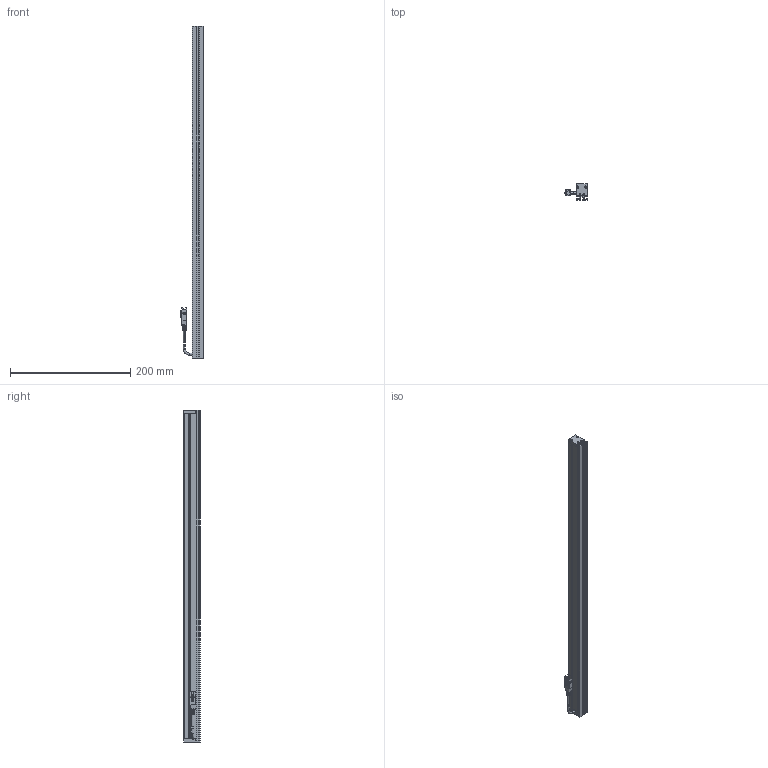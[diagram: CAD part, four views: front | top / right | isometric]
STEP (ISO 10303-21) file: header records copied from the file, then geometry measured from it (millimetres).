
FILE_DESCRIPTION (( 'STEP AP203' ), '1' );
FILE_NAME ('CK-BL55218.STEP', '2025-12-26T08:51:58', ( '' ), ( '' ), 'SwSTEP 2.0', 'SolidWorks 2022', '' );
FILE_SCHEMA (( 'CONFIG_CONTROL_DESIGN' ));
Length unit declared in the file: millimetre
Products named in the file (6): CK-BL55218; CK-BL55218-002A; CK-BL55218-001A; 十字沉头螺丝 M2x10; 光源线-01; CK-BL55218-003A
Assembly tree (9 placements, depth 2):
  CK-BL55218
    CK-BL55218-001A
    CK-BL55218-002A  x2
    CK-BL55218-003A
    光源线-01
    十字沉头螺丝 M2x10  x4
Bounding box: 37.34 x 27 x 552 mm (x, y, z)
Volume: 124073.5 mm3; surface area: 122516.8 mm2
Topology: 11 solids, 11 shells, 474 faces, 1231 edges, 780 vertices
Faces by surface type: plane 271, cylinder 149, cone 34, bspline 20
Entity records: 12442 total; most frequent: CARTESIAN_POINT 2514, ORIENTED_EDGE 1936, DIRECTION 1916, EDGE_CURVE 968, LINE 668, VECTOR 668, VERTEX_POINT 626, AXIS2_PLACEMENT_3D 624
